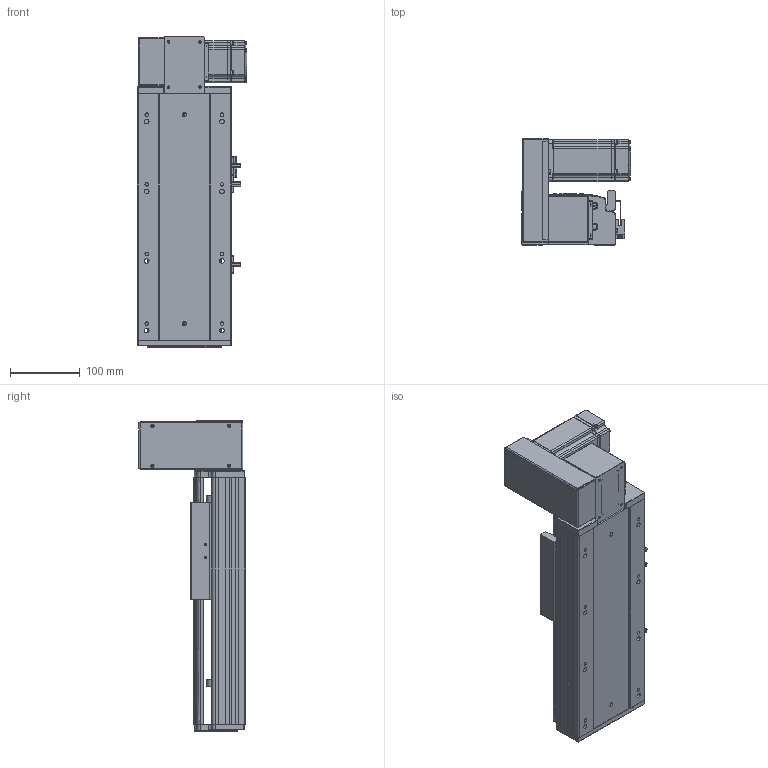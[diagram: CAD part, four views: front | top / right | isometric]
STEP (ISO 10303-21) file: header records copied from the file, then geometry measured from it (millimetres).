
FILE_DESCRIPTION (( 'STEP AP203' ), '1' );
FILE_NAME ('RY140-T-300-UL.SLDASM_100.step', '2021-03-01T07:42:39', ( '盈信电脑' ), ( '东莞市道滘镇水果街19号' ), 'SwSTEP 2.0', 'SolidWorks 2012', '' );
FILE_SCHEMA (( 'CONFIG_CONTROL_DESIGN' ));
Products named in the file (18): 侂狟400W侜督萇儂; RY140-T萇儂假蚾啣; 15; RY120-T主同步轮轴承压盖; RY120-T肮祭湍揤踡輸2; RY120-T肮祭湍揤踡輸1; RY140-T翋肮祭謫盓傅釱; RY120外置感应片(140共用）; RY140-T-300-DL倰第奻裔啣_100; 覜茼ん672; RY140肮祭謫臏賑輸; RY140綴裔啣; RY140-T-300-DL倰第菁釱_100; RY140-T萇儂欶; RY140-T翋肮謫裔啣; RY140-T-300-UL.SLDASM_100; 滅袉蝶18-10; RY120-T蹟翐M4
Assembly tree (23 placements, depth 3):
  RY140-T-300-UL.SLDASM_100
    RY140-T-300-DL倰第菁釱_100
    RY140肮祭謫臏賑輸
    RY140-T-300-DL倰第奻裔啣_100
    RY140綴裔啣
    覜茼ん672  x3
    RY120外置感应片(140共用）
    RY120-T肮祭湍揤踡輸2
    RY120-T肮祭湍揤踡輸1
    RY140-T翋肮祭謫盓傅釱
    RY140-T萇儂假蚾啣
    侂狟400W侜督萇儂
      15
    RY120-T主同步轮轴承压盖
    RY120-T蹟翐M4  x4
    RY140-T萇儂欶
    滅袉蝶18-10  x2
    RY140-T翋肮謫裔啣
Bounding box: 157 x 152.5 x 446 mm (x, y, z)
Volume: 1843910.8 mm3; surface area: 645303.8 mm2
Topology: 22 solids, 22 shells, 2499 faces, 6809 edges, 4406 vertices
Faces by surface type: plane 1385, cylinder 856, cone 158, bspline 100
Entity records: 78935 total; most frequent: CARTESIAN_POINT 19343, ORIENTED_EDGE 12226, DIRECTION 11561, EDGE_CURVE 6113, VECTOR 4017, LINE 4017, VERTEX_POINT 4005, AXIS2_PLACEMENT_3D 3772
